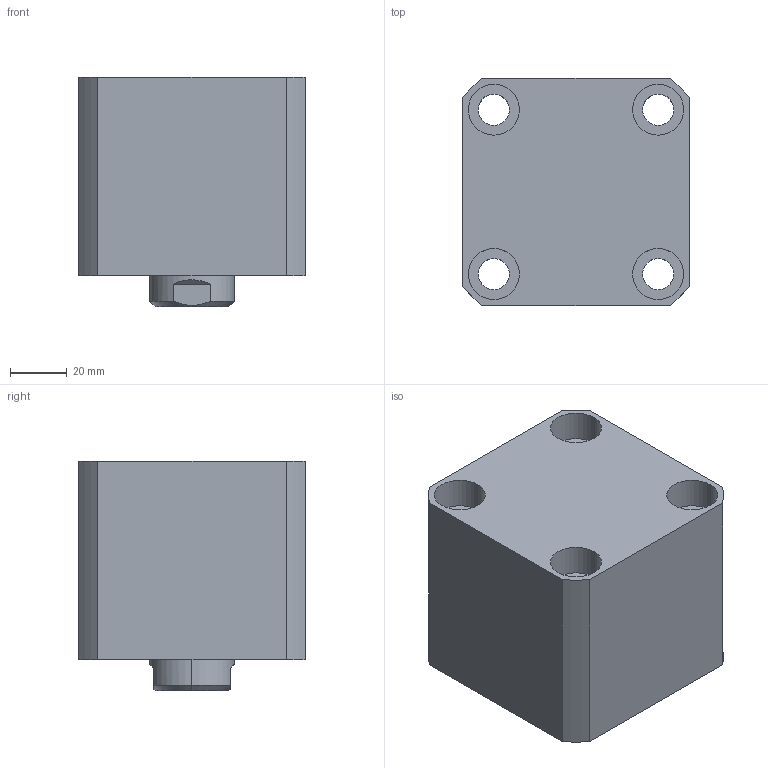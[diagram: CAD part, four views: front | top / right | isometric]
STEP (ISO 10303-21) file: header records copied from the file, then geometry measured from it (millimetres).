
FILE_DESCRIPTION (( 'STEP AP203' ), '1' );
FILE_NAME ('CHTB-SD50-10N.STEP', '2018-05-18T11:34:46', ( '' ), ( '' ), 'SwSTEP 2.0', 'SolidWorks 2015', '' );
FILE_SCHEMA (( 'CONFIG_CONTROL_DESIGN' ));
Length unit declared in the file: millimetre
Products named in the file (4): CHTB-SD50-10N; CHTM-SD50QG; 活塞杆SD50-10N; 掛极SD50-10N
Assembly tree (3 placements, depth 2):
  CHTB-SD50-10N
    掛极SD50-10N
    活塞杆SD50-10N
    CHTM-SD50QG
Bounding box: 80 x 80 x 81 mm (x, y, z)
Volume: 382038.3 mm3; surface area: 85357.3 mm2
Topology: 3 solids, 3 shells, 194 faces, 499 edges, 330 vertices
Faces by surface type: cylinder 104, plane 39, cone 21, torus 16, bspline 14
Entity records: 10789 total; most frequent: CARTESIAN_POINT 5840, ORIENTED_EDGE 986, DIRECTION 914, EDGE_CURVE 493, AXIS2_PLACEMENT_3D 383, VERTEX_POINT 330, EDGE_LOOP 233, CIRCLE 197
